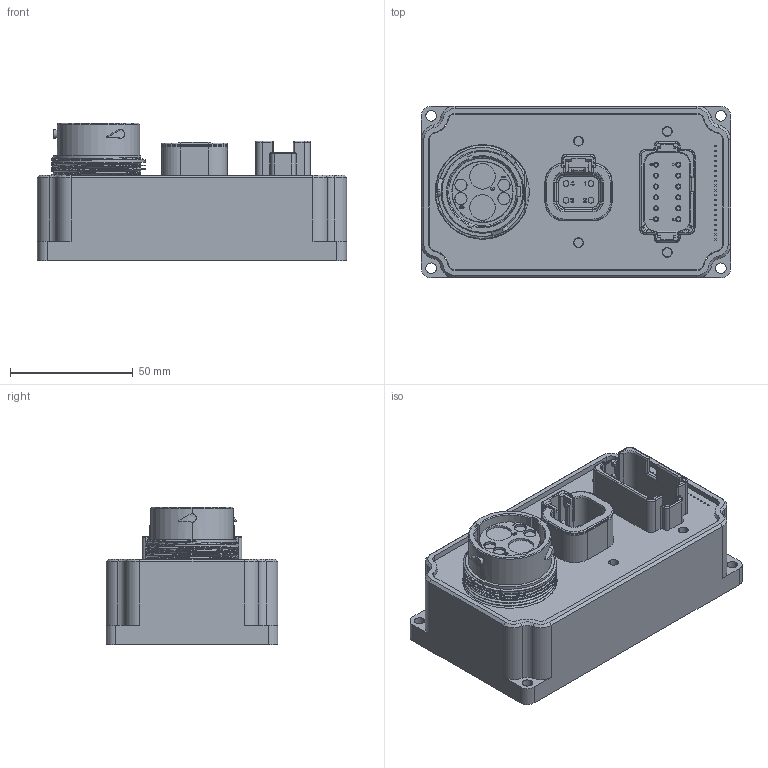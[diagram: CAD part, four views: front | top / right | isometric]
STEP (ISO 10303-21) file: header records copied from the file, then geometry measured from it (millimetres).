
FILE_DESCRIPTION (( 'STEP AP214' ), '1' );
FILE_NAME ('Assem1.STEP', '2019-09-16T19:57:41', ( '' ), ( '' ), 'SwSTEP 2.0', 'SolidWorks 2014', '' );
FILE_SCHEMA (( 'AUTOMOTIVE_DESIGN' ));
Length unit declared in the file: millimetre
Products named in the file (37): _MTMM-130-07-T-S-070_body; _MTMM-130-07-T-S-070_pins; 3D; _T-1S6-07-TSW-1-07-11-D; TSW-111-07-T-D; _TSW-111-07-T-D_body; Board_3D; Part3^Assem1; Part2^Assem1; Part1^Assem1; box; c-dt15-12pb-b016-99-3d; c-dtp15-4p-99-3d; c-hdp24-18-6pn-a-3d; Assem1; _MTMM-120-15-T-S-090_body; MTMM-120-15-T-S-090; _MTMM-120-15-T-S-090_pins; MTMM-130-07-T-S-070
Assembly tree (20 placements, depth 4):
  _MTMM-130-07-T-S-070_body
  _MTMM-130-07-T-S-070_pins
  _T-1S6-07-TSW-1-07-11-D
  _TSW-111-07-T-D_body
  _T-1S6-07-TSW-1-07-11-D
Bounding box: 126 x 70 x 56.16 mm (x, y, z)
Volume: 168376.9 mm3; surface area: 107790.1 mm2
Topology: 18 solids, 18 shells, 5567 faces, 13893 edges, 8642 vertices
Faces by surface type: plane 4416, cylinder 758, bspline 293, cone 92, torus 8
Entity records: 163812 total; most frequent: CARTESIAN_POINT 45196, ORIENTED_EDGE 19984, DIRECTION 18322, EDGE_CURVE 9992, VECTOR 7614, LINE 7614, VERTEX_POINT 6266, AXIS2_PLACEMENT_3D 5354
